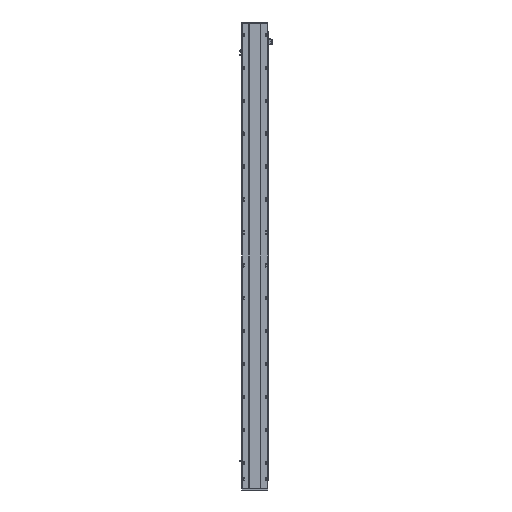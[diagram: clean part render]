
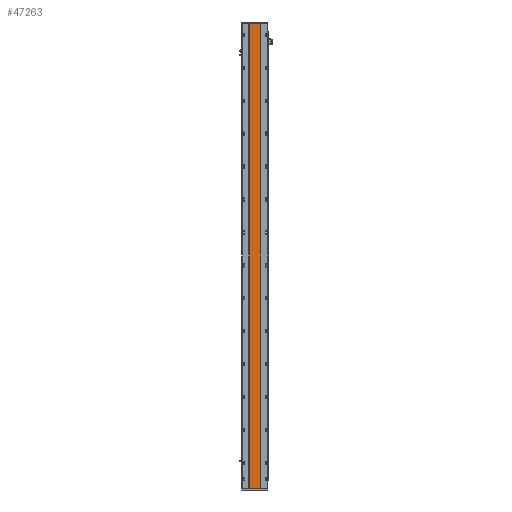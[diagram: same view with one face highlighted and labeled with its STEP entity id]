
A CAD part, front view. The second image highlights one B-rep face of the part: STEP entity #47263.
In plain terms, the highlighted planar face has unit normal (0, -1, 0).
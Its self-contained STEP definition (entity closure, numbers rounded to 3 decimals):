
#109 = DIRECTION ( 'NONE',  ( 1., 0., 0. ) ) ;
#1180 = LINE ( 'NONE', #6021, #4717 ) ;
#3965 = VERTEX_POINT ( 'NONE', #23675 ) ;
#4417 = VERTEX_POINT ( 'NONE', #41858 ) ;
#4717 = VECTOR ( 'NONE', #40165, 1000. ) ;
#6021 = CARTESIAN_POINT ( 'NONE',  ( 205.288, 16.9, 3052. ) ) ;
#7765 = ORIENTED_EDGE ( 'NONE', *, *, #29074, .T. ) ;
#7787 = FACE_OUTER_BOUND ( 'NONE', #30076, .T. ) ;
#8869 = EDGE_CURVE ( 'NONE', #4417, #24989, #11250, .T. ) ;
#9664 = CARTESIAN_POINT ( 'NONE',  ( 129.288, 16.9, 3052. ) ) ;
#10695 = ORIENTED_EDGE ( 'NONE', *, *, #31651, .F. ) ;
#11250 = LINE ( 'NONE', #11443, #42593 ) ;
#11443 = CARTESIAN_POINT ( 'NONE',  ( 205.288, 16.9, 0. ) ) ;
#12594 = AXIS2_PLACEMENT_3D ( 'NONE', #12896, #46883, #24288 ) ;
#12801 = VERTEX_POINT ( 'NONE', #22429 ) ;
#12896 = CARTESIAN_POINT ( 'NONE',  ( 205.288, 16.9, 3052. ) ) ;
#13002 = CARTESIAN_POINT ( 'NONE',  ( 129.288, 16.9, 3052. ) ) ;
#13176 = CARTESIAN_POINT ( 'NONE',  ( 205.288, 16.9, 0. ) ) ;
#14863 = VECTOR ( 'NONE', #42567, 1000. ) ;
#22429 = CARTESIAN_POINT ( 'NONE',  ( 129.288, 16.9, 3052. ) ) ;
#23126 = ORIENTED_EDGE ( 'NONE', *, *, #42785, .F. ) ;
#23675 = CARTESIAN_POINT ( 'NONE',  ( 205.288, 16.9, 3052. ) ) ;
#24288 = DIRECTION ( 'NONE',  ( -1., 0., 0. ) ) ;
#24326 = LINE ( 'NONE', #13002, #14863 ) ;
#24989 = VERTEX_POINT ( 'NONE', #13176 ) ;
#29074 = EDGE_CURVE ( 'NONE', #12801, #4417, #29881, .T. ) ;
#29881 = LINE ( 'NONE', #9664, #44042 ) ;
#30076 = EDGE_LOOP ( 'NONE', ( #32308, #23126, #10695, #7765 ) ) ;
#31651 = EDGE_CURVE ( 'NONE', #12801, #3965, #24326, .T. ) ;
#32308 = ORIENTED_EDGE ( 'NONE', *, *, #8869, .T. ) ;
#36073 = DIRECTION ( 'NONE',  ( 0., 0., -1. ) ) ;
#40165 = DIRECTION ( 'NONE',  ( 0., 0., -1. ) ) ;
#41858 = CARTESIAN_POINT ( 'NONE',  ( 129.288, 16.9, 0. ) ) ;
#42567 = DIRECTION ( 'NONE',  ( 1., 0., 0. ) ) ;
#42593 = VECTOR ( 'NONE', #109, 1000. ) ;
#42785 = EDGE_CURVE ( 'NONE', #3965, #24989, #1180, .T. ) ;
#43427 = PLANE ( 'NONE',  #12594 ) ;
#44042 = VECTOR ( 'NONE', #36073, 1000. ) ;
#46883 = DIRECTION ( 'NONE',  ( 0., 1., 0. ) ) ;
#47263 = ADVANCED_FACE ( 'NONE', ( #7787 ), #43427, .F. ) ;
